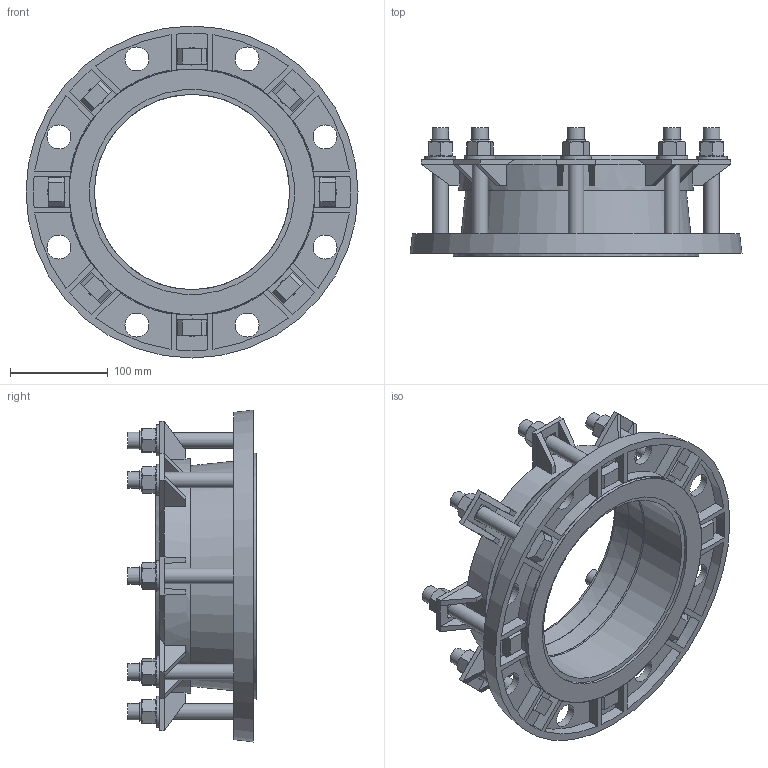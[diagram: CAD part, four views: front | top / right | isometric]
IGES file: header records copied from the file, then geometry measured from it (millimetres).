
Start section: SolidWorks IGES file using analytic representation for surfaces
Global section: file name: \\avksan2\techshare\PBM outline export from Enovia\O_623_10_DN200-200mm_X0XXXXX_REV01.igs; native system: SolidWorks 2019; preprocessor: SolidWorks 2019; author: pbm; date: 200417.105701; units: millimetre
Bounding box: 340 x 131.5 x 340 mm (x, y, z)
Surface area: 404461.2 mm2 (no closed solid volume)
Topology: 0 solids, 0 shells, 643 faces, 3116 edges, 3041 vertices
Faces by surface type: bspline 388, revolution 255
